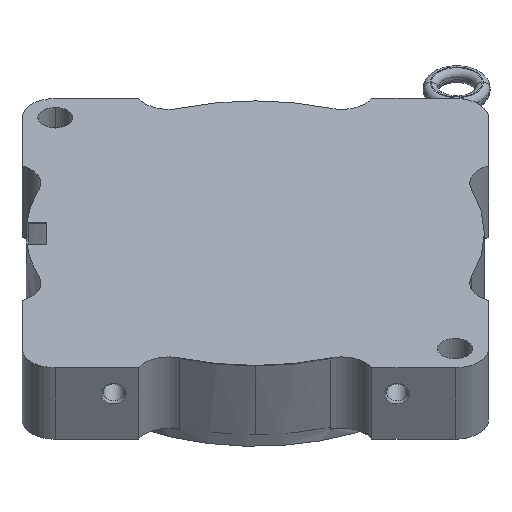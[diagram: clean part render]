
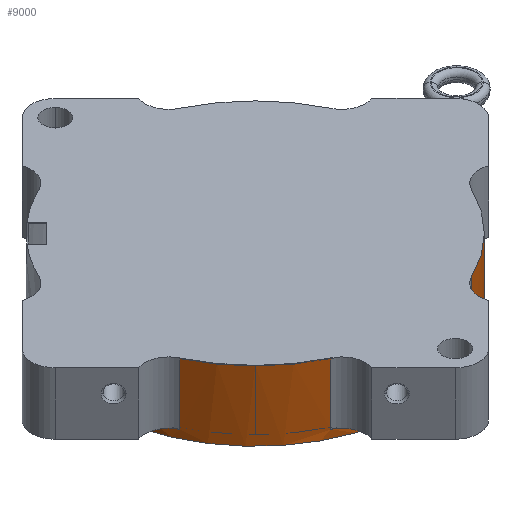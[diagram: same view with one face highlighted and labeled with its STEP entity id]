
A CAD part, isometric view. The second image highlights one B-rep face of the part: STEP entity #9000.
In plain terms, the highlighted cylindrical face has radius 27.5 mm (diameter 55 mm), a partial arc.
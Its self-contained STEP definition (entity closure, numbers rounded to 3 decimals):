
#295=DIRECTION('',(0.,0.,-1.));
#296=VECTOR('',#295,10.5);
#297=CARTESIAN_POINT('',(-24.773,-11.938,7.8));
#298=LINE('',#297,#296);
#304=DIRECTION('',(0.,0.,-1.));
#305=VECTOR('',#304,1.4);
#306=CARTESIAN_POINT('',(27.411,-2.213,-2.7));
#307=LINE('',#306,#305);
#308=CARTESIAN_POINT('',(0.,0.,-4.1));
#309=DIRECTION('',(0.,0.,-1.));
#310=DIRECTION('',(0.997,-0.08,0.));
#311=AXIS2_PLACEMENT_3D('',#308,#309,#310);
#313=DIRECTION('',(0.,0.,-1.));
#314=VECTOR('',#313,1.4);
#315=CARTESIAN_POINT('',(-27.411,-2.213,-2.7));
#316=LINE('',#315,#314);
#317=CARTESIAN_POINT('',(0.,0.,7.8));
#318=DIRECTION('',(0.,0.,1.));
#319=DIRECTION('',(-0.901,-0.434,0.));
#320=AXIS2_PLACEMENT_3D('',#317,#318,#319);
#322=CARTESIAN_POINT('',(0.,0.,7.8));
#323=DIRECTION('',(0.,0.,1.));
#324=DIRECTION('',(0.434,-0.901,0.));
#325=AXIS2_PLACEMENT_3D('',#322,#323,#324);
#336=DIRECTION('',(0.,0.,1.));
#337=VECTOR('',#336,10.5);
#338=CARTESIAN_POINT('',(24.773,-11.938,-2.7));
#339=LINE('',#338,#337);
#1484=CARTESIAN_POINT('',(0.,0.,-2.7));
#1485=DIRECTION('',(0.,0.,1.));
#1486=DIRECTION('',(0.901,-0.434,0.));
#1487=AXIS2_PLACEMENT_3D('',#1484,#1485,#1486);
#3109=CARTESIAN_POINT('',(0.,0.,-2.7));
#3110=DIRECTION('',(0.,0.,1.));
#3111=DIRECTION('',(-0.997,-0.08,0.));
#3112=AXIS2_PLACEMENT_3D('',#3109,#3110,#3111);
#7604=DIRECTION('',(0.,0.,-1.));
#7605=VECTOR('',#7604,10.5);
#7606=CARTESIAN_POINT('',(11.938,-24.773,7.8));
#7607=LINE('',#7606,#7605);
#7613=CARTESIAN_POINT('',(0.,0.,-2.7));
#7614=DIRECTION('',(0.,0.,1.));
#7615=DIRECTION('',(-0.434,-0.901,0.));
#7616=AXIS2_PLACEMENT_3D('',#7613,#7614,#7615);
#7654=DIRECTION('',(0.,0.,1.));
#7655=VECTOR('',#7654,10.5);
#7656=CARTESIAN_POINT('',(-11.938,-24.773,-2.7));
#7657=LINE('',#7656,#7655);
#7828=CARTESIAN_POINT('',(24.773,-11.938,7.8));
#7829=VERTEX_POINT('',#7828);
#7838=CARTESIAN_POINT('',(11.938,-24.773,7.8));
#7839=VERTEX_POINT('',#7838);
#7840=CARTESIAN_POINT('',(-11.938,-24.773,7.8));
#7841=VERTEX_POINT('',#7840);
#7850=CARTESIAN_POINT('',(-24.773,-11.938,7.8));
#7851=VERTEX_POINT('',#7850);
#8032=CARTESIAN_POINT('',(-24.773,-11.938,-2.7));
#8034=VERTEX_POINT('',#8032);
#8041=CARTESIAN_POINT('',(24.773,-11.938,-2.7));
#8042=VERTEX_POINT('',#8041);
#8049=CARTESIAN_POINT('',(27.411,-2.213,-4.1));
#8051=VERTEX_POINT('',#8049);
#8054=CARTESIAN_POINT('',(-27.411,-2.213,-4.1));
#8056=VERTEX_POINT('',#8054);
#8059=CARTESIAN_POINT('',(27.411,-2.213,-2.7));
#8060=VERTEX_POINT('',#8059);
#8061=CARTESIAN_POINT('',(-27.411,-2.213,-2.7));
#8062=VERTEX_POINT('',#8061);
#8469=CARTESIAN_POINT('',(-11.938,-24.773,-2.7));
#8470=VERTEX_POINT('',#8469);
#8472=CARTESIAN_POINT('',(11.938,-24.773,-2.7));
#8474=VERTEX_POINT('',#8472);
#8972=CARTESIAN_POINT('',(0.,0.,0.));
#8973=DIRECTION('',(0.,0.,1.));
#8974=DIRECTION('',(0.707,-0.707,0.));
#8975=AXIS2_PLACEMENT_3D('',#8972,#8973,#8974);
#8976=CYLINDRICAL_SURFACE('',#8975,27.5);
#8978=ORIENTED_EDGE('',*,*,#8977,.F.);
#8980=ORIENTED_EDGE('',*,*,#8979,.T.);
#8982=ORIENTED_EDGE('',*,*,#8981,.T.);
#8984=ORIENTED_EDGE('',*,*,#8983,.T.);
#8986=ORIENTED_EDGE('',*,*,#8985,.F.);
#8988=ORIENTED_EDGE('',*,*,#8987,.T.);
#8989=ORIENTED_EDGE('',*,*,#8963,.F.);
#8990=ORIENTED_EDGE('',*,*,#8768,.T.);
#8992=ORIENTED_EDGE('',*,*,#8991,.F.);
#8994=ORIENTED_EDGE('',*,*,#8993,.T.);
#8996=ORIENTED_EDGE('',*,*,#8995,.F.);
#8997=ORIENTED_EDGE('',*,*,#8756,.T.);
#8998=EDGE_LOOP('',(#8978,#8980,#8982,#8984,#8986,#8988,#8989,#8990,#8992,#8994,
#8996,#8997));
#8999=FACE_OUTER_BOUND('',#8998,.F.);
#9000=ADVANCED_FACE('',(#8999),#8976,.T.);
#312=CIRCLE('',#311,27.5);
#321=CIRCLE('',#320,27.5);
#326=CIRCLE('',#325,27.5);
#1488=CIRCLE('',#1487,27.5);
#3113=CIRCLE('',#3112,27.5);
#7617=CIRCLE('',#7616,27.5);
#8756=EDGE_CURVE('',#7839,#7829,#326,.T.);
#8768=EDGE_CURVE('',#7851,#7841,#321,.T.);
#8963=EDGE_CURVE('',#7851,#8034,#298,.T.);
#8977=EDGE_CURVE('',#8042,#7829,#339,.T.);
#8979=EDGE_CURVE('',#8042,#8060,#1488,.T.);
#8981=EDGE_CURVE('',#8060,#8051,#307,.T.);
#8983=EDGE_CURVE('',#8051,#8056,#312,.T.);
#8985=EDGE_CURVE('',#8062,#8056,#316,.T.);
#8987=EDGE_CURVE('',#8062,#8034,#3113,.T.);
#8991=EDGE_CURVE('',#8470,#7841,#7657,.T.);
#8993=EDGE_CURVE('',#8470,#8474,#7617,.T.);
#8995=EDGE_CURVE('',#7839,#8474,#7607,.T.);
